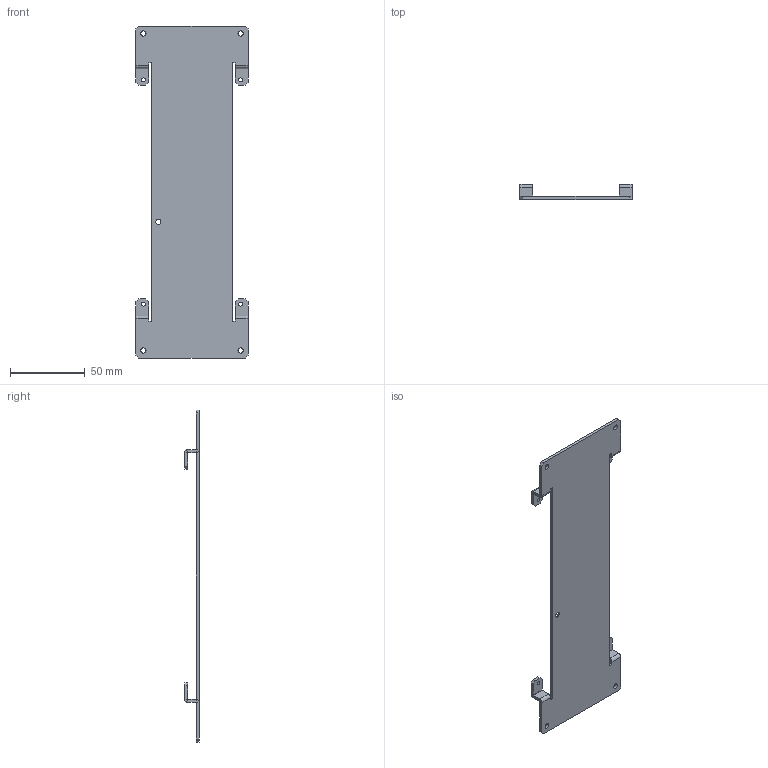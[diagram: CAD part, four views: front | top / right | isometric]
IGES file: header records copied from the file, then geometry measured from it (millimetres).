
Start section: SolidWorks IGES file using analytic representation for surfaces
Global section: file name: C:\3D\d-19_outline.IGS; native system: SolidWorks 2020; preprocessor: SolidWorks 2020; author: a000000; date: 231106.161536; units: millimetre
Bounding box: 75 x 10 x 222 mm (x, y, z)
Volume: 27336.5 mm3; surface area: 29114.2 mm2
Topology: 1 solids, 1 shells, 219 faces, 567 edges, 356 vertices
Faces by surface type: plane 158, revolution 36, bspline 25
